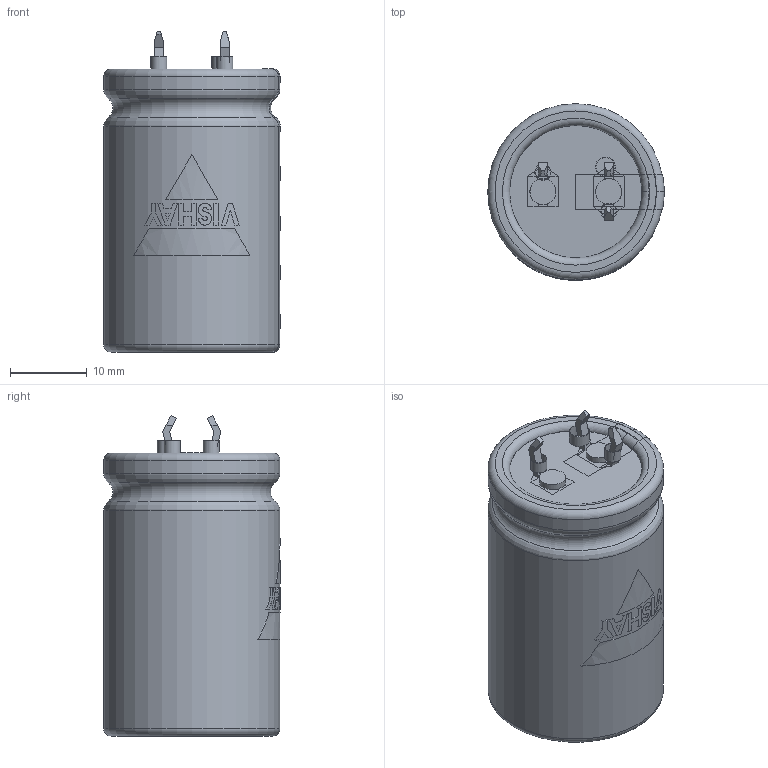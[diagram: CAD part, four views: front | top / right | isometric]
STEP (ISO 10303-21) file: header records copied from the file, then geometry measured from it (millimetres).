
FILE_DESCRIPTION(('FreeCAD Model'),'2;1');
FILE_NAME( 'C:/Users/Gebruiker/Documents/FreeCAD/SnapIn_22x35_3pin_4.0.step', '2020-11-12T21:06:15',('Author'),(''), 'Open CASCADE STEP processor 6.8','FreeCAD','Unknown');
FILE_SCHEMA(('AUTOMOTIVE_DESIGN_CC2 { 1 2 10303 214 -1 1 5 4 }'));
Length unit declared in the file: millimetre
Products named in the file (9): ASSEMBLY; TerminalPlus; Disc; BottomInsulation; Can3D; InkMinusBar; InkLogo; TerminalMinKP; PCBHolesKP
Assembly tree (8 placements, depth 2):
  ASSEMBLY
    TerminalPlus
    Disc
    BottomInsulation
    Can3D
    InkMinusBar
    InkLogo
    TerminalMinKP
    PCBHolesKP
Bounding box: 23.05 x 23.05 x 41.95 mm (x, y, z)
Volume: 17229.2 mm3; surface area: 8267.8 mm2
Topology: 17 solids, 17 shells, 213 faces, 524 edges, 342 vertices
Faces by surface type: plane 164, cylinder 31, torus 18
Full cylindrical faces by diameter (mm): 2 x2, 2.1 x2, 2.5 x1, 2.6 x1, 3.4 x2, 17.3 x1, 18.4 x2, 23 x2
Entity records: 21364 total; most frequent: CARTESIAN_POINT 9684, DIRECTION 1806, ORIENTED_EDGE 1048, PCURVE 1048, DEFINITIONAL_REPRESENTATION 1048, LINE 1013, VECTOR 1013, EDGE_CURVE 524
